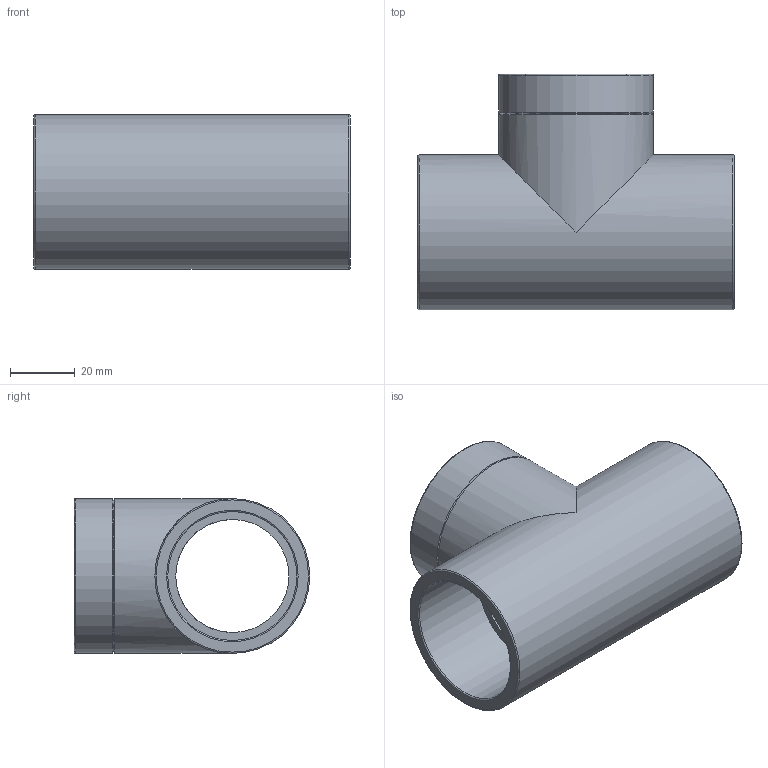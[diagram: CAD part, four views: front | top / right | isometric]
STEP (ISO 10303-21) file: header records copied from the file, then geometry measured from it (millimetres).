
FILE_DESCRIPTION(/* description */ ('PLASSON TEE THR-CEM REINF. P 40-1.1/4"'),/* implementation_level */ '2;1');
FILE_NAME(/* name */ 'C:\Dropbox\KIMPROJECTS-Inventor\99-16-3568-Processing\PVC Catalog 2017\057402\050402040013.ipt.stp',/* time_stamp */ '2017-12-07T16:05:58+02:00',/* author */ ('KIM'),/* organization */ (''),/* preprocessor_version */ 'ST-DEVELOPER v15.6',/* originating_system */ 'Autodesk Inventor 2015',/* authorisation */ '');
FILE_SCHEMA (('AUTOMOTIVE_DESIGN { 1 0 10303 214 3 1 1 }'));
Length unit declared in the file: millimetre
Products named in the file (1): 050402040013
Bounding box: 98 x 73 x 48 mm (x, y, z)
Volume: 81436.8 mm3; surface area: 34874.3 mm2
Topology: 1 solids, 1 shells, 21 faces, 45 edges, 28 vertices
Faces by surface type: cylinder 8, plane 6, torus 5, cone 2
Full cylindrical faces by diameter (mm): 35.057 x2, 38.952 x1, 40 x2, 48 x3
Entity records: 486 total; most frequent: DIRECTION 92, CARTESIAN_POINT 70, ORIENTED_EDGE 48, AXIS2_PLACEMENT_3D 46, EDGE_LOOP 44, VERTEX_POINT 24, EDGE_CURVE 24, FACE_BOUND 23
